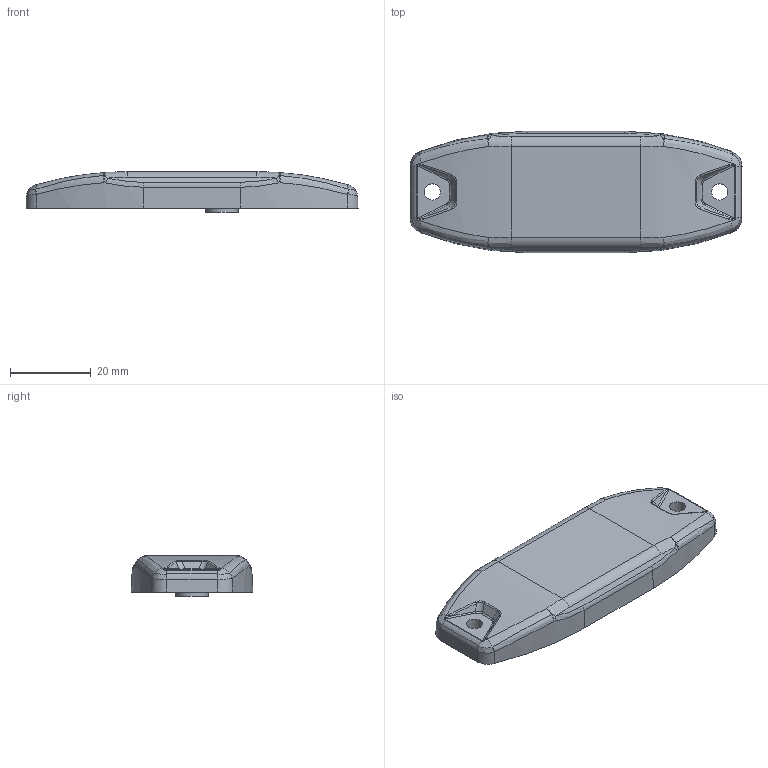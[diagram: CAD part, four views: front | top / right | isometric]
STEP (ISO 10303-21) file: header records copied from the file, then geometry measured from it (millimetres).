
FILE_DESCRIPTION(/* description */ (''),/* implementation_level */ '2;1');
FILE_NAME(/* name */ 'SF3.step',/* time_stamp */ '2023-04-04T10:11:53+02:00',/* author */ (''),/* organization */ (''),/* preprocessor_version */ 'ST-DEVELOPER v19.2',/* originating_system */ 'Autodesk Translation Framework v11.17.0.187',/* authorisation */ '');
FILE_SCHEMA (('AUTOMOTIVE_DESIGN { 1 0 10303 214 3 1 1 }'));
Length unit declared in the file: millimetre
Products named in the file (1): (Nicht gespeichert)
Bounding box: 82.07 x 30.07 x 10 mm (x, y, z)
Volume: 8654.1 mm3; surface area: 12196.3 mm2
Topology: 2 solids, 2 shells, 459 faces, 1081 edges, 623 vertices
Faces by surface type: bspline 156, plane 106, cylinder 95, torus 56, cone 40, sphere 6
Full cylindrical faces by diameter (mm): 4 x2, 6 x1, 7.5 x1, 8 x1
Entity records: 22683 total; most frequent: CARTESIAN_POINT 12871, ORIENTED_EDGE 2150, DIRECTION 1895, EDGE_CURVE 1075, AXIS2_PLACEMENT_3D 743, VERTEX_POINT 623, EDGE_LOOP 470, FACE_OUTER_BOUND 459
